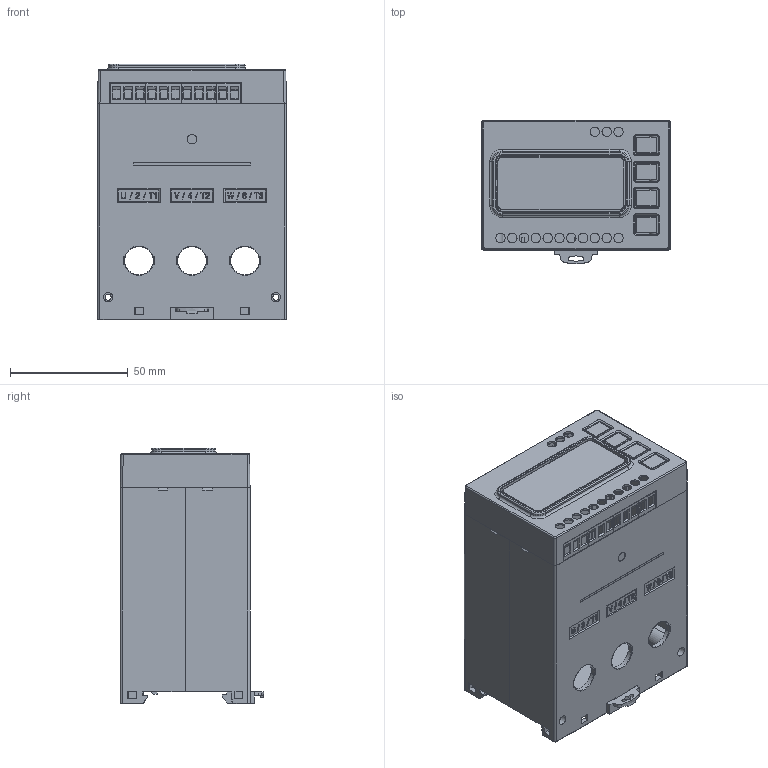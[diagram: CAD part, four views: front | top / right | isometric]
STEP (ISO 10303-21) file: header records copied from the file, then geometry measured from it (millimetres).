
FILE_DESCRIPTION(/* description */ (''),/* implementation_level */ '2;1');
FILE_NAME(/* name */ 'GTR-CP-0001_R01_CP HGMP N60I_N60Z IT_stp__stp.stp',/* time_stamp */ '2020-06-19T09:28:51+09:00',/* author */ (''),/* organization */ (''),/* preprocessor_version */ 'ST-DEVELOPER v16',/* originating_system */ 'SIEMENS PLM Software NX 11.0',/* authorisation */ '');
FILE_SCHEMA (('AP203_CONFIGURATION_CONTROLLED_3D_DESIGN_OF_MECHANICAL_PARTS_AND_ASSEMBLIES_MIM_LF { 1 0 10303 403 2 1 2}'));
Products named in the file (1): GTR-CP-0001_R01_CP HGMP N60I_N60Z IT_stp__stp
Bounding box: 80 x 60.8 x 108.2 mm (x, y, z)
Volume: 67965.3 mm3; surface area: 82011.9 mm2
Topology: 15 solids, 15 shells, 1630 faces, 4398 edges, 2832 vertices
Faces by surface type: plane 1106, cylinder 279, extrusion 157, torus 32, cone 28, sphere 24, bspline 4
Full cylindrical faces by diameter (mm): 1.8 x1, 2.5 x2, 3.5 x2, 4 x17, 6.4 x2
Entity records: 59362 total; most frequent: CARTESIAN_POINT 11434, ORIENTED_EDGE 8664, DIRECTION 7633, EDGE_CURVE 4332, VECTOR 3553, LINE 3396, VERTEX_POINT 2814, AXIS2_PLACEMENT_3D 2040
